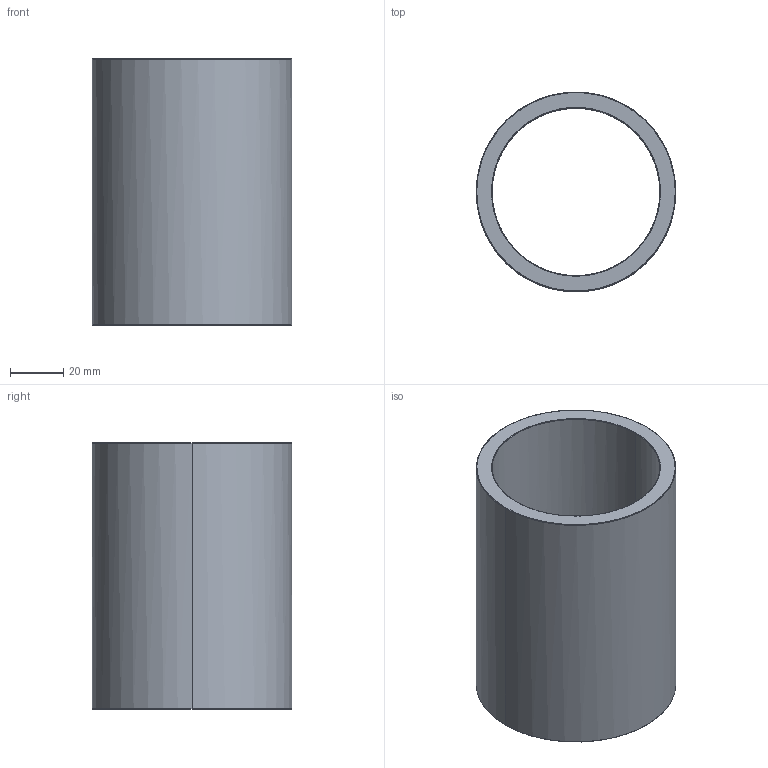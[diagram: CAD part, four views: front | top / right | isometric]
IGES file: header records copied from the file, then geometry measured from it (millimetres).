
Start section: Write IGES format                                    datakit 2008 (c)
Global section: file name: Unknown; native system: DATAKIT Converter; preprocessor: Unknown; author: Unknown; organization: Unknown; date: 950613.180003; units: millimetre
Bounding box: 75 x 74.86 x 100 mm (x, y, z)
Surface area: 45853.6 mm2 (no closed solid volume)
Topology: 0 solids, 0 shells, 14 faces, 56 edges, 56 vertices
Faces by surface type: revolution 12, bspline 2
